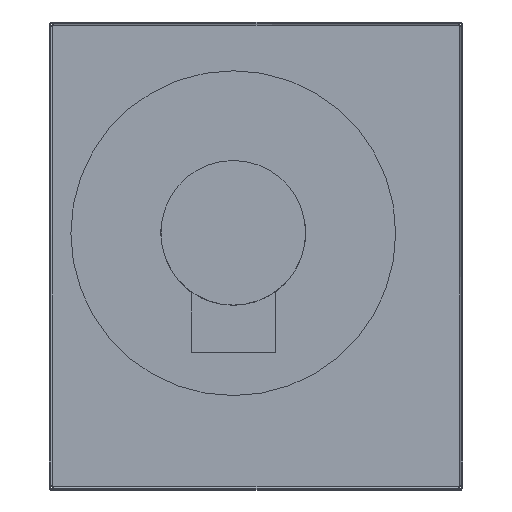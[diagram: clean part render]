
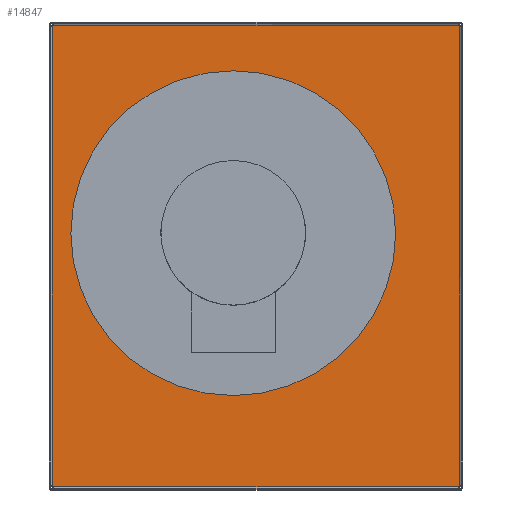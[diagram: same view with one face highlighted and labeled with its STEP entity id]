
A CAD part, top view. The second image highlights one B-rep face of the part: STEP entity #14847.
In plain terms, the highlighted planar face has unit normal (0, 0, 1).
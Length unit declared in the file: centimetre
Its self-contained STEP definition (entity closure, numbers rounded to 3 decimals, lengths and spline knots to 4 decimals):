
#280=CIRCLE('',#15419,0.25);
#281=CIRCLE('',#15420,0.25);
#282=CIRCLE('',#15421,0.25);
#283=CIRCLE('',#15422,0.25);
#284=CIRCLE('',#15423,15.);
#444=FACE_BOUND('',#2304,.T.);
#739=PLANE('',#15418);
#1452=FACE_OUTER_BOUND('',#2303,.T.);
#2303=EDGE_LOOP('',(#13007,#13008,#13009,#13010,#13011,#13012,#13013,#13014));
#2304=EDGE_LOOP('',(#13015));
#3533=LINE('',#29156,#4632);
#3534=LINE('',#29160,#4633);
#3535=LINE('',#29164,#4634);
#3536=LINE('',#29168,#4635);
#4632=VECTOR('',#17357,42.572);
#4633=VECTOR('',#17360,37.572);
#4634=VECTOR('',#17363,42.572);
#4635=VECTOR('',#17366,37.572);
#6922=VERTEX_POINT('',#29154);
#6923=VERTEX_POINT('',#29155);
#6924=VERTEX_POINT('',#29157);
#6925=VERTEX_POINT('',#29159);
#6926=VERTEX_POINT('',#29161);
#6927=VERTEX_POINT('',#29163);
#6928=VERTEX_POINT('',#29165);
#6929=VERTEX_POINT('',#29167);
#6930=VERTEX_POINT('',#29170);
#8996=EDGE_CURVE('',#6922,#6923,#3533,.T.);
#8997=EDGE_CURVE('',#6923,#6924,#280,.T.);
#8998=EDGE_CURVE('',#6924,#6925,#3534,.T.);
#8999=EDGE_CURVE('',#6925,#6926,#281,.T.);
#9000=EDGE_CURVE('',#6926,#6927,#3535,.T.);
#9001=EDGE_CURVE('',#6927,#6928,#282,.T.);
#9002=EDGE_CURVE('',#6928,#6929,#3536,.T.);
#9003=EDGE_CURVE('',#6929,#6922,#283,.T.);
#9004=EDGE_CURVE('',#6930,#6930,#284,.T.);
#13007=ORIENTED_EDGE('',*,*,#8996,.T.);
#13008=ORIENTED_EDGE('',*,*,#8997,.T.);
#13009=ORIENTED_EDGE('',*,*,#8998,.T.);
#13010=ORIENTED_EDGE('',*,*,#8999,.T.);
#13011=ORIENTED_EDGE('',*,*,#9000,.T.);
#13012=ORIENTED_EDGE('',*,*,#9001,.T.);
#13013=ORIENTED_EDGE('',*,*,#9002,.T.);
#13014=ORIENTED_EDGE('',*,*,#9003,.T.);
#13015=ORIENTED_EDGE('',*,*,#9004,.T.);
#14847=ADVANCED_FACE('',(#1452,#444),#739,.F.);
#15418=AXIS2_PLACEMENT_3D('',#29153,#17355,#17356);
#15419=AXIS2_PLACEMENT_3D('',#29158,#17358,#17359);
#15420=AXIS2_PLACEMENT_3D('',#29162,#17361,#17362);
#15421=AXIS2_PLACEMENT_3D('',#29166,#17364,#17365);
#15422=AXIS2_PLACEMENT_3D('',#29169,#17367,#17368);
#15423=AXIS2_PLACEMENT_3D('',#29171,#17369,#17370);
#17355=DIRECTION('center_axis',(0.,0.,
-1.));
#17356=DIRECTION('ref_axis',(0.,1.,0.));
#17357=DIRECTION('',(0.,-1.,0.));
#17358=DIRECTION('center_axis',(0.,0.,
-1.));
#17359=DIRECTION('ref_axis',(0.,-1.,0.));
#17360=DIRECTION('',(1.,0.,0.));
#17361=DIRECTION('center_axis',(0.,0.,
-1.));
#17362=DIRECTION('ref_axis',(0.,-1.,0.));
#17363=DIRECTION('',(0.,1.,0.));
#17364=DIRECTION('center_axis',(0.,0.,
-1.));
#17365=DIRECTION('ref_axis',(0.,-1.,0.));
#17366=DIRECTION('',(-1.,0.,0.));
#17367=DIRECTION('center_axis',(0.,0.,
-1.));
#17368=DIRECTION('ref_axis',(0.,-1.,0.));
#17369=DIRECTION('center_axis',(0.,0.,
-1.));
#17370=DIRECTION('ref_axis',(-1.,0.,0.));
#29153=CARTESIAN_POINT('Origin',(100.76,144.1756,8.5));
#29154=CARTESIAN_POINT('',(93.9595,153.4621,8.5));
#29155=CARTESIAN_POINT('',(93.9595,110.89,8.5));
#29156=CARTESIAN_POINT('',(93.9595,121.4511,8.5));
#29157=CARTESIAN_POINT('',(93.9735,110.8761,8.5));
#29158=CARTESIAN_POINT('Origin',(93.7899,110.7064,8.5));
#29159=CARTESIAN_POINT('',(131.5456,110.8761,8.5));
#29160=CARTESIAN_POINT('',(122.1595,110.8761,8.5));
#29161=CARTESIAN_POINT('',(131.5595,110.89,8.5));
#29162=CARTESIAN_POINT('Origin',(131.7292,110.7064,8.5));
#29163=CARTESIAN_POINT('',(131.5595,153.4621,8.5));
#29164=CARTESIAN_POINT('',(131.5595,142.8261,8.5));
#29165=CARTESIAN_POINT('',(131.5456,153.4761,8.5));
#29166=CARTESIAN_POINT('Origin',(131.7292,153.6457,8.5));
#29167=CARTESIAN_POINT('',(93.9735,153.4761,8.5));
#29168=CARTESIAN_POINT('',(103.2845,153.4761,8.5));
#29169=CARTESIAN_POINT('Origin',(93.7899,153.6457,8.5));
#29170=CARTESIAN_POINT('',(125.6595,134.2761,8.5));
#29171=CARTESIAN_POINT('Origin',(110.6595,134.2761,8.5));
